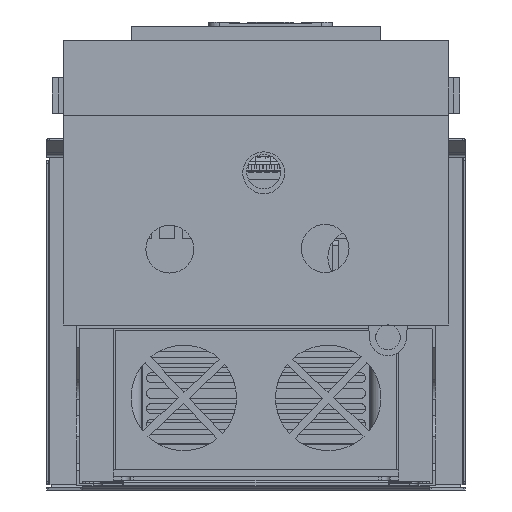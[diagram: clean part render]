
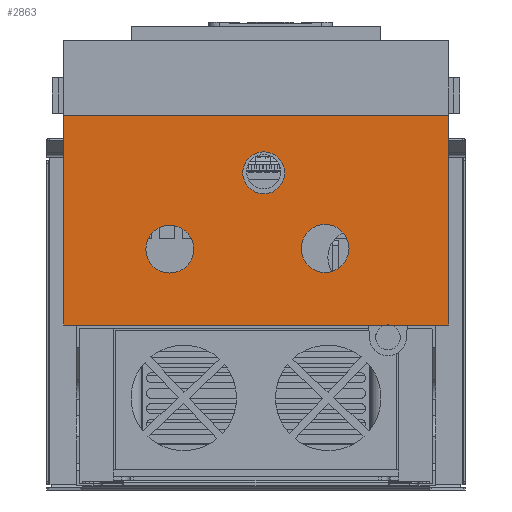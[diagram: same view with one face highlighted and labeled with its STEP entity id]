
A CAD part, front view. The second image highlights one B-rep face of the part: STEP entity #2863.
In plain terms, the highlighted planar face has unit normal (0, -1, 0).
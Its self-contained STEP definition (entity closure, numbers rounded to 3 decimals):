
#104=DIRECTION('',(1.,0.,0.));
#105=VECTOR('',#104,209.419);
#106=CARTESIAN_POINT('',(-124.52,-202.39,0.));
#107=LINE('',#106,#105);
#167=DIRECTION('',(1.,0.,0.));
#168=VECTOR('',#167,249.26);
#169=CARTESIAN_POINT('',(-124.52,-202.39,135.81));
#170=LINE('',#169,#168);
#171=CARTESIAN_POINT('',(85.394,-202.39,-7.985));
#172=DIRECTION('',(0.,-1.,0.));
#173=DIRECTION('',(0.062,0.,0.998));
#174=AXIS2_PLACEMENT_3D('',#171,#172,#173);
#176=DIRECTION('',(0.,0.,1.));
#177=VECTOR('',#176,135.81);
#178=CARTESIAN_POINT('',(-124.52,-202.39,0.));
#179=LINE('',#178,#177);
#180=CARTESIAN_POINT('',(44.71,-202.39,49.55));
#181=DIRECTION('',(0.,-1.,0.));
#182=DIRECTION('',(1.,0.,0.));
#183=AXIS2_PLACEMENT_3D('',#180,#181,#182);
#185=CARTESIAN_POINT('',(44.71,-202.39,49.55));
#186=DIRECTION('',(0.,-1.,0.));
#187=DIRECTION('',(-1.,0.,0.));
#188=AXIS2_PLACEMENT_3D('',#185,#186,#187);
#190=CARTESIAN_POINT('',(5.,-202.39,98.5));
#191=DIRECTION('',(0.,-1.,0.));
#192=DIRECTION('',(1.,0.,0.));
#193=AXIS2_PLACEMENT_3D('',#190,#191,#192);
#195=CARTESIAN_POINT('',(5.,-202.39,98.5));
#196=DIRECTION('',(0.,-1.,0.));
#197=DIRECTION('',(-1.,0.,0.));
#198=AXIS2_PLACEMENT_3D('',#195,#196,#197);
#200=CARTESIAN_POINT('',(-55.81,-202.39,49.1));
#201=DIRECTION('',(0.,-1.,0.));
#202=DIRECTION('',(1.,0.,0.));
#203=AXIS2_PLACEMENT_3D('',#200,#201,#202);
#205=CARTESIAN_POINT('',(-55.81,-202.39,49.1));
#206=DIRECTION('',(0.,-1.,0.));
#207=DIRECTION('',(-1.,0.,0.));
#208=AXIS2_PLACEMENT_3D('',#205,#206,#207);
#222=DIRECTION('',(0.,0.,1.));
#223=VECTOR('',#222,135.81);
#224=CARTESIAN_POINT('',(124.74,-202.39,0.));
#225=LINE('',#224,#223);
#593=DIRECTION('',(1.,0.,0.));
#594=VECTOR('',#593,38.851);
#595=CARTESIAN_POINT('',(85.889,-202.39,0.));
#596=LINE('',#595,#594);
#2061=CARTESIAN_POINT('',(-124.52,-202.39,0.));
#2062=VERTEX_POINT('',#2061);
#2063=CARTESIAN_POINT('',(84.899,-202.39,0.));
#2064=VERTEX_POINT('',#2063);
#2081=CARTESIAN_POINT('',(85.889,-202.39,0.));
#2082=VERTEX_POINT('',#2081);
#2083=CARTESIAN_POINT('',(-124.52,-202.39,135.81));
#2084=CARTESIAN_POINT('',(124.74,-202.39,135.81));
#2085=VERTEX_POINT('',#2083);
#2086=VERTEX_POINT('',#2084);
#2087=CARTESIAN_POINT('',(124.74,-202.39,0.));
#2088=VERTEX_POINT('',#2087);
#2089=CARTESIAN_POINT('',(60.205,-202.39,49.55));
#2090=CARTESIAN_POINT('',(29.215,-202.39,49.55));
#2091=VERTEX_POINT('',#2089);
#2092=VERTEX_POINT('',#2090);
#2093=CARTESIAN_POINT('',(18.575,-202.39,98.5));
#2094=CARTESIAN_POINT('',(-8.575,-202.39,98.5));
#2095=VERTEX_POINT('',#2093);
#2096=VERTEX_POINT('',#2094);
#2097=CARTESIAN_POINT('',(-40.315,-202.39,49.1));
#2098=CARTESIAN_POINT('',(-71.305,-202.39,49.1));
#2099=VERTEX_POINT('',#2097);
#2100=VERTEX_POINT('',#2098);
#2828=CARTESIAN_POINT('',(-124.52,-202.39,0.));
#2829=DIRECTION('',(0.,-1.,0.));
#2830=DIRECTION('',(1.,0.,0.));
#2831=AXIS2_PLACEMENT_3D('',#2828,#2829,#2830);
#2832=PLANE('',#2831);
#2834=ORIENTED_EDGE('',*,*,#2833,.T.);
#2836=ORIENTED_EDGE('',*,*,#2835,.F.);
#2838=ORIENTED_EDGE('',*,*,#2837,.F.);
#2839=ORIENTED_EDGE('',*,*,#2798,.T.);
#2840=ORIENTED_EDGE('',*,*,#2753,.F.);
#2842=ORIENTED_EDGE('',*,*,#2841,.T.);
#2843=EDGE_LOOP('',(#2834,#2836,#2838,#2839,#2840,#2842));
#2844=FACE_OUTER_BOUND('',#2843,.F.);
#2846=ORIENTED_EDGE('',*,*,#2845,.T.);
#2848=ORIENTED_EDGE('',*,*,#2847,.T.);
#2849=EDGE_LOOP('',(#2846,#2848));
#2850=FACE_BOUND('',#2849,.F.);
#2852=ORIENTED_EDGE('',*,*,#2851,.T.);
#2854=ORIENTED_EDGE('',*,*,#2853,.T.);
#2855=EDGE_LOOP('',(#2852,#2854));
#2856=FACE_BOUND('',#2855,.F.);
#2858=ORIENTED_EDGE('',*,*,#2857,.T.);
#2860=ORIENTED_EDGE('',*,*,#2859,.T.);
#2861=EDGE_LOOP('',(#2858,#2860));
#2862=FACE_BOUND('',#2861,.F.);
#2863=ADVANCED_FACE('',(#2844,#2850,#2856,#2862),#2832,.T.);
#175=CIRCLE('',#174,8.);
#184=CIRCLE('',#183,15.495);
#189=CIRCLE('',#188,15.495);
#194=CIRCLE('',#193,13.575);
#199=CIRCLE('',#198,13.575);
#204=CIRCLE('',#203,15.495);
#209=CIRCLE('',#208,15.495);
#2753=EDGE_CURVE('',#2062,#2064,#107,.T.);
#2798=EDGE_CURVE('',#2082,#2064,#175,.T.);
#2833=EDGE_CURVE('',#2085,#2086,#170,.T.);
#2835=EDGE_CURVE('',#2088,#2086,#225,.T.);
#2837=EDGE_CURVE('',#2082,#2088,#596,.T.);
#2841=EDGE_CURVE('',#2062,#2085,#179,.T.);
#2845=EDGE_CURVE('',#2091,#2092,#184,.T.);
#2847=EDGE_CURVE('',#2092,#2091,#189,.T.);
#2851=EDGE_CURVE('',#2095,#2096,#194,.T.);
#2853=EDGE_CURVE('',#2096,#2095,#199,.T.);
#2857=EDGE_CURVE('',#2099,#2100,#204,.T.);
#2859=EDGE_CURVE('',#2100,#2099,#209,.T.);
